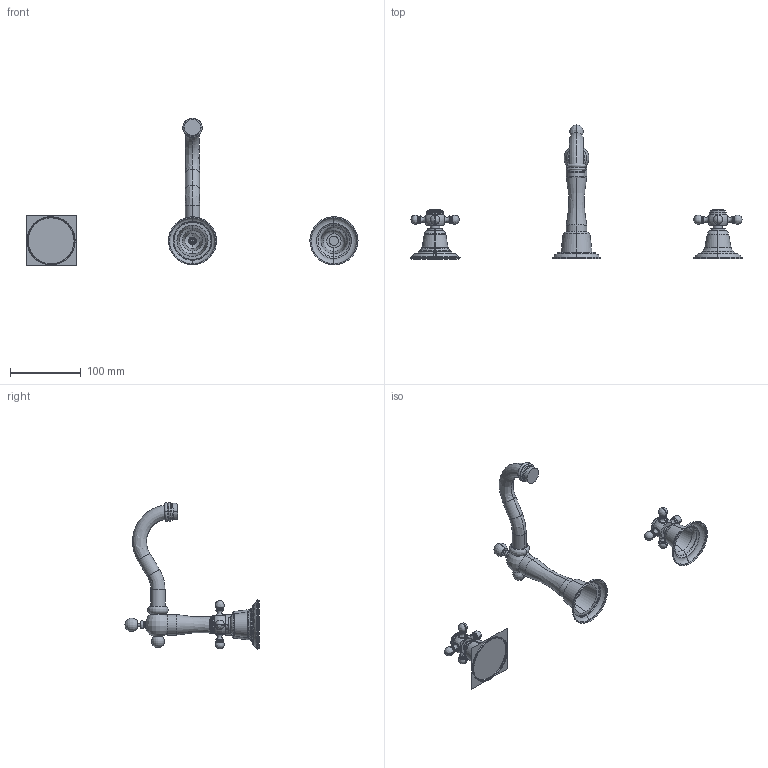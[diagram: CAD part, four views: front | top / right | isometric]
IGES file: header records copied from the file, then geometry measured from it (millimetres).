
Start section:  PTC IGES file: 37078_web.igs
Global section: file name: 37078_web.igs; native system: Creo Parametric by PTC Inc.; preprocessor: 2018190; author: jaje1; organization: Unknown; date: 20181105.131520; units: millimetre
Bounding box: 469.4 x 189.55 x 208.71 mm (x, y, z)
Surface area: 76995.9 mm2 (no closed solid volume)
Topology: 0 solids, 0 shells, 304 faces, 2530 edges, 3138 vertices
Faces by surface type: revolution 284, bspline 20
